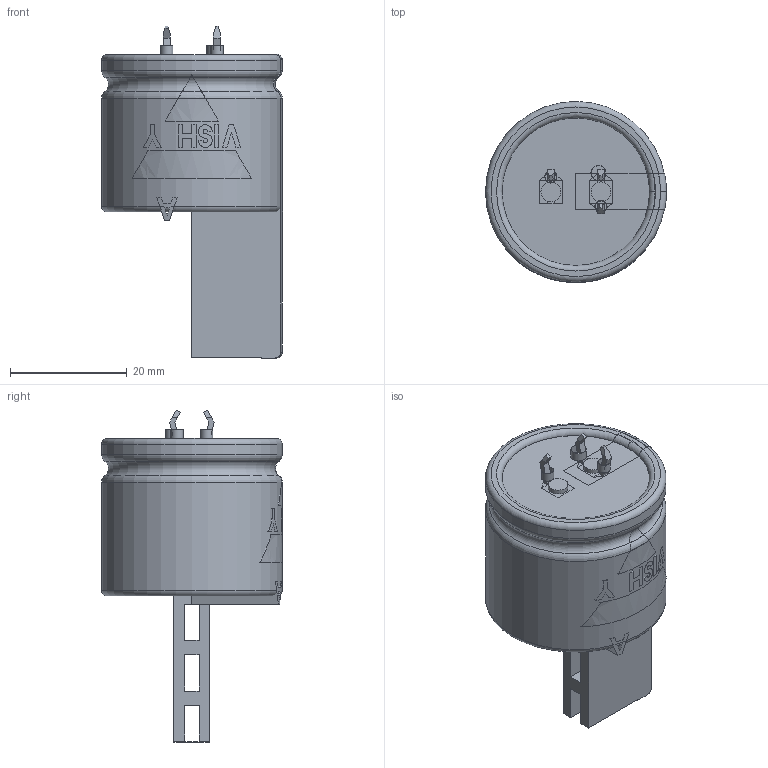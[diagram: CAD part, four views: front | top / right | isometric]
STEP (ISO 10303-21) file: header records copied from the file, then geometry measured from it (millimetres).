
FILE_DESCRIPTION(('FreeCAD Model'),'2;1');
FILE_NAME( 'C:/Users/Gebruiker/Documents/FreeCAD/SnapIn_30x25_3pin_4.0.step', '2020-11-12T21:10:45',('Author'),(''), 'Open CASCADE STEP processor 6.8','FreeCAD','Unknown');
FILE_SCHEMA(('AUTOMOTIVE_DESIGN_CC2 { 1 2 10303 214 -1 1 5 4 }'));
Length unit declared in the file: millimetre
Products named in the file (9): ASSEMBLY; TerminalPlus; Disc; BottomInsulation; Can3D; InkMinusBar; InkLogo; TerminalMinKP; PCBHolesKP
Assembly tree (8 placements, depth 2):
  ASSEMBLY
    TerminalPlus
    Disc
    BottomInsulation
    Can3D
    InkMinusBar
    InkLogo
    TerminalMinKP
    PCBHolesKP
Bounding box: 31.05 x 31.05 x 56.95 mm (x, y, z)
Volume: 5786.7 mm3; surface area: 12903.6 mm2
Topology: 16 solids, 20 shells, 216 faces, 548 edges, 358 vertices
Faces by surface type: plane 161, cylinder 31, torus 21, cone 3
Full cylindrical faces by diameter (mm): 2 x2, 2.1 x2, 2.5 x1, 2.6 x1, 3.4 x2, 24.8 x2, 25.3 x1, 31 x2
Entity records: 25476 total; most frequent: CARTESIAN_POINT 13425, DIRECTION 1856, ORIENTED_EDGE 1086, PCURVE 1086, DEFINITIONAL_REPRESENTATION 1086, LINE 1040, VECTOR 1040, EDGE_CURVE 546
